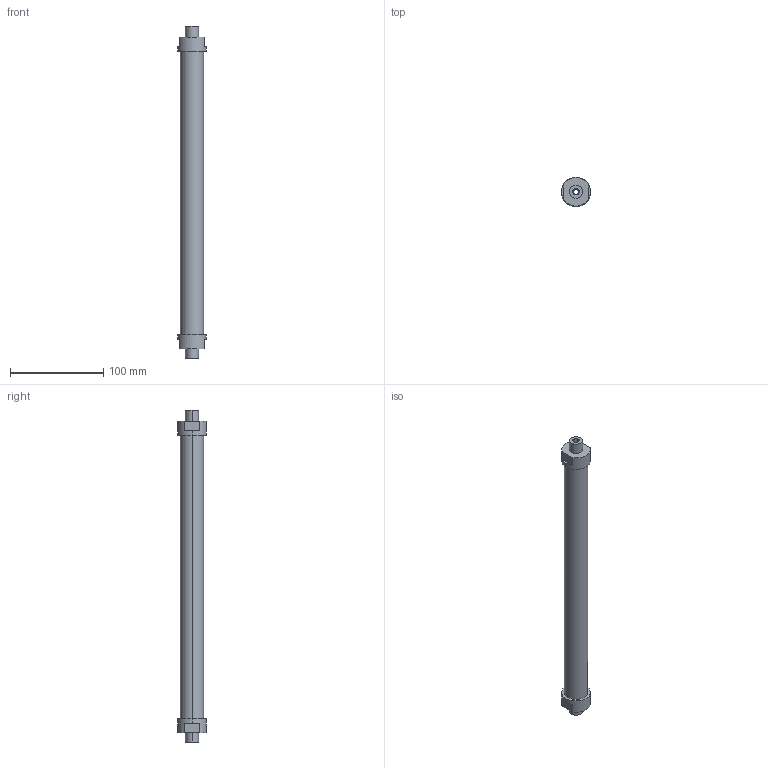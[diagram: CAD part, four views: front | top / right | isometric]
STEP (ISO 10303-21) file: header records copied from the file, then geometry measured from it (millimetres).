
FILE_DESCRIPTION(('STEP AP214'),'1');
FILE_NAME('ETT-R050G344.stp','2015-02-02T11:39:51',(' '),(' '),'Spatial InterOp 3D',' ',' ');
FILE_SCHEMA(('automotive_design'));
Length unit declared in the file: metre
Products named in the file (3): 1; 2; 3
Bounding box: 31 x 31 x 356 mm (x, y, z)
Volume: 164044.7 mm3; surface area: 36930.7 mm2
Topology: 1 solids, 7 shells, 32 faces, 86 edges, 66 vertices
Faces by surface type: cylinder 16, plane 16
Entity records: 1375 total; most frequent: DIRECTION 206, CARTESIAN_POINT 187, ORIENTED_EDGE 148, EDGE_CURVE 86, AXIS2_PLACEMENT_3D 85, VERTEX_POINT 66, CIRCLE 50, EDGE_LOOP 40
